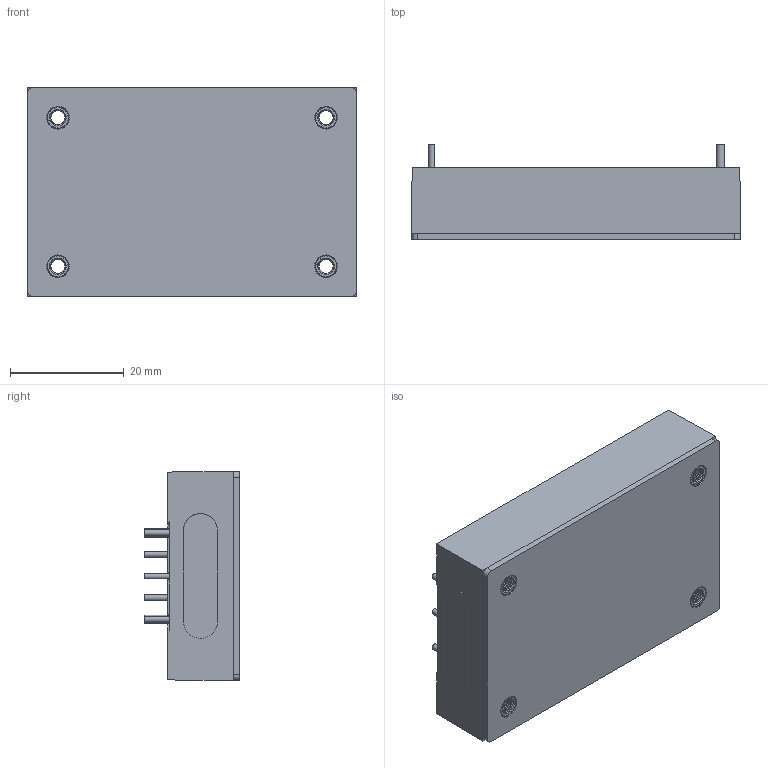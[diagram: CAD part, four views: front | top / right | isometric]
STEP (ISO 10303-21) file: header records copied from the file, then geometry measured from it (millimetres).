
FILE_DESCRIPTION (( 'STEP AP203' ), '1' );
FILE_NAME ('CQB100W 2023.10.06.STEP', '2023-10-12T15:31:13', ( '' ), ( '' ), 'SwSTEP 2.0', 'SolidWorks 2020', '' );
FILE_SCHEMA (( 'CONFIG_CONTROL_DESIGN' ));
Products named in the file (1): CQB100W 2023.10.06
Bounding box: 57.9 x 16.82 x 36.8 mm (x, y, z)
Volume: 26484.1 mm3; surface area: 9472.1 mm2
Topology: 1 solids, 2 shells, 911 faces, 2508 edges, 1671 vertices
Faces by surface type: plane 626, bspline 131, cone 120, cylinder 34
Full cylindrical faces by diameter (mm): 1.02 x6, 1.5 x2, 4 x4, 4.3 x4, 4.5 x4
Entity records: 44985 total; most frequent: CARTESIAN_POINT 22983, ORIENTED_EDGE 4906, DIRECTION 3898, EDGE_CURVE 2453, VERTEX_POINT 1652, VECTOR 1532, LINE 1532, AXIS2_PLACEMENT_3D 1183
